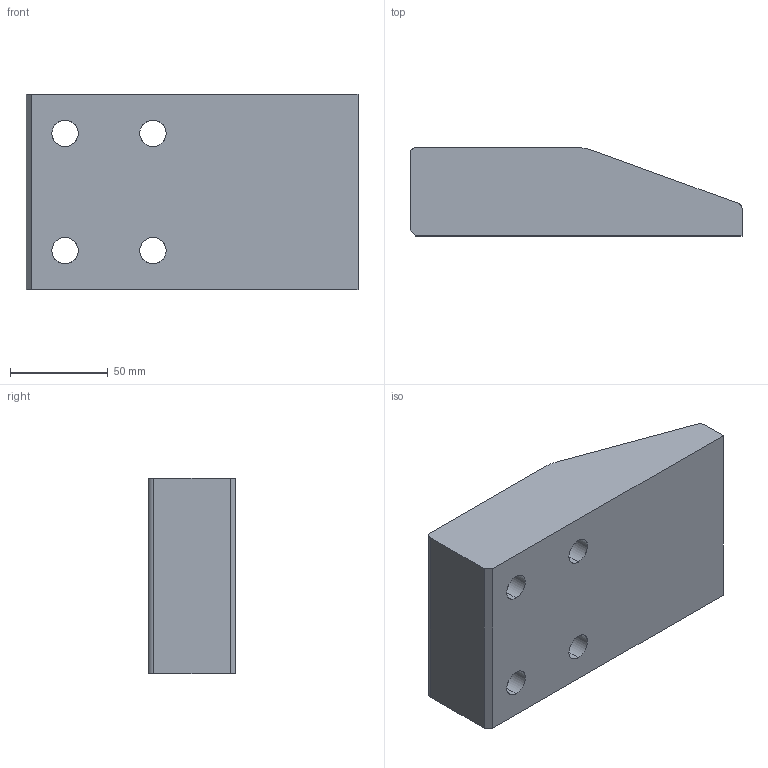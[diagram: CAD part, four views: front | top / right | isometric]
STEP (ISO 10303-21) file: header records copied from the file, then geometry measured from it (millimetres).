
FILE_DESCRIPTION(('CATIA V5 STEP Exchange'),'2;1');
FILE_NAME('C:\Users\Utente\Desktop\3D files A934\A934-10017045.stp','2020-04-17T08:27:53+00:00',('none'),('none'),'CATIA Version 5 Release 20 GA (IN-10)','CATIA V5 STEP AP203','none');
FILE_SCHEMA(('CONFIG_CONTROL_DESIGN'));
Length unit declared in the file: millimetre
Products named in the file (1): Noname
Bounding box: 170 x 45 x 100 mm (x, y, z)
Surface area: 61825.3 mm2 (no closed solid volume)
Topology: 0 solids, 27 shells, 39 faces, 158 edges, 134 vertices
Faces by surface type: cylinder 19, extrusion 12, revolution 8
Entity records: 2130 total; most frequent: CARTESIAN_POINT 868, ORIENTED_EDGE 182, DIRECTION 174, EDGE_CURVE 158, VERTEX_POINT 134, AXIS2_PLACEMENT_3D 82, VECTOR 66, B_SPLINE_CURVE_WITH_KNOTS 62
